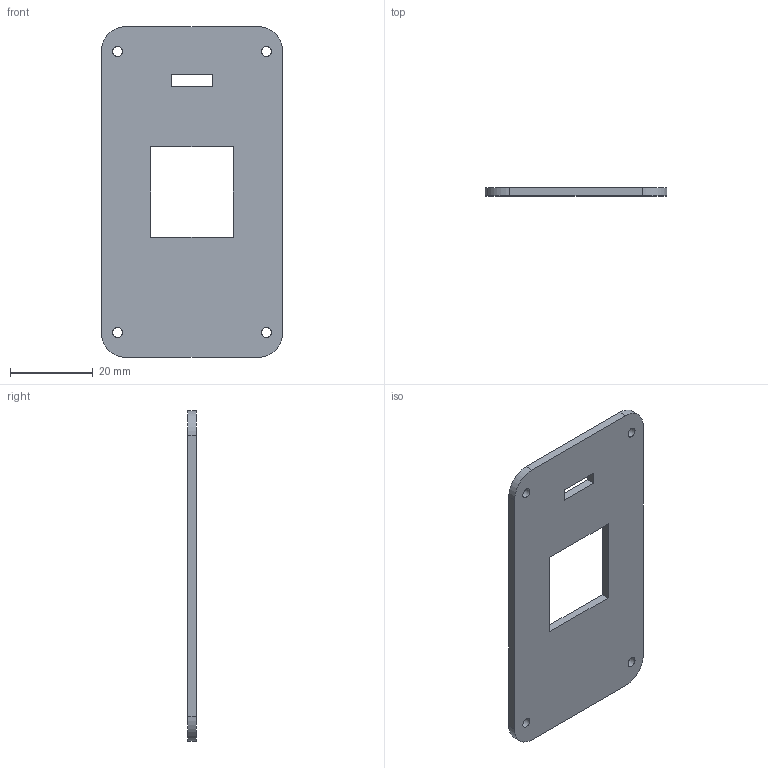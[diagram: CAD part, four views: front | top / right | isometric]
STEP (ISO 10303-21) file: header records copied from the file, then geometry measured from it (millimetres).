
FILE_DESCRIPTION(('Open CASCADE Model'),'2;1');
FILE_NAME('Open CASCADE Shape Model','2026-10-07T22:00:03',('Author'),( 'Open CASCADE'),'Open CASCADE STEP processor 7.9','Open CASCADE 7.9' ,'Unknown');
FILE_SCHEMA(('AUTOMOTIVE_DESIGN { 1 0 10303 214 1 1 1 1 }'));
Length unit declared in the file: millimetre
Products named in the file (1): Open CASCADE STEP translator 7.9 7
Bounding box: 44 x 2 x 80 mm (x, y, z)
Volume: 6002 mm3; surface area: 6757.7 mm2
Topology: 1 solids, 1 shells, 22 faces, 60 edges, 40 vertices
Faces by surface type: plane 14, cylinder 8
Full cylindrical faces by diameter (mm): 2.4 x4
Entity records: 1488 total; most frequent: CARTESIAN_POINT 287, DIRECTION 208, ORIENTED_EDGE 120, PCURVE 120, DEFINITIONAL_REPRESENTATION 120, LINE 116, VECTOR 116, EDGE_CURVE 60
